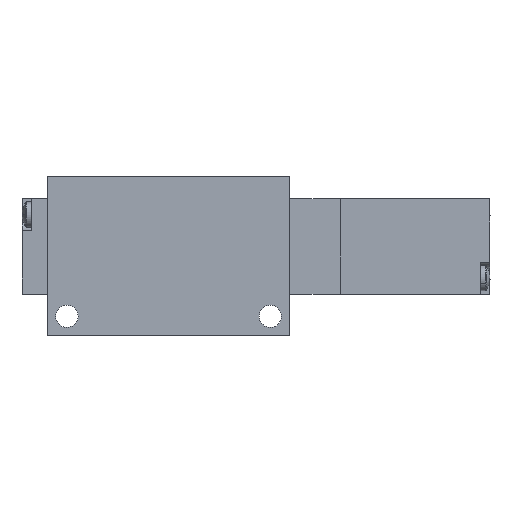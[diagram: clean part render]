
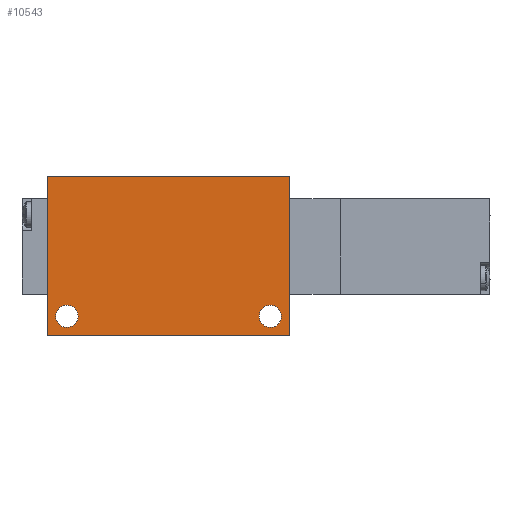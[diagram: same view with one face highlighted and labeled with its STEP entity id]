
A CAD part, front view. The second image highlights one B-rep face of the part: STEP entity #10543.
In plain terms, the highlighted planar face has unit normal (0, -1, 0).
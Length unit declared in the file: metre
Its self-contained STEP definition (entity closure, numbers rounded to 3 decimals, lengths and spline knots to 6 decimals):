
#51 = EDGE_LOOP ( 'NONE', ( #8492, #4723 ) ) ;
#93 = CARTESIAN_POINT ( 'NONE',  ( 0.019, -0.0105, -0.0015 ) ) ;
#106 = LINE ( 'NONE', #10734, #1836 ) ;
#130 = VERTEX_POINT ( 'NONE', #2410 ) ;
#149 = EDGE_CURVE ( 'NONE', #10753, #7674, #1873, .T. ) ;
#177 = EDGE_CURVE ( 'NONE', #7674, #2455, #3901, .T. ) ;
#744 = CARTESIAN_POINT ( 'NONE',  ( 0.016, -0.0105, -0.011 ) ) ;
#829 = PLANE ( 'NONE',  #4753 ) ;
#855 = CARTESIAN_POINT ( 'NONE',  ( 0.019, -0.0105, -0.014 ) ) ;
#897 = VERTEX_POINT ( 'NONE', #9152 ) ;
#937 = DIRECTION ( 'NONE',  ( 0., 0., 1. ) ) ;
#1187 = DIRECTION ( 'NONE',  ( 0., 0., 1. ) ) ;
#1212 = CARTESIAN_POINT ( 'NONE',  ( 0., -0.0105, -0.014 ) ) ;
#1288 = AXIS2_PLACEMENT_3D ( 'NONE', #744, #6794, #1598 ) ;
#1340 = VECTOR ( 'NONE', #1187, 1. ) ;
#1481 = ORIENTED_EDGE ( 'NONE', *, *, #10466, .F. ) ;
#1598 = DIRECTION ( 'NONE',  ( 0., 0., 1. ) ) ;
#1682 = CIRCLE ( 'NONE', #6454, 0.00175 ) ;
#1836 = VECTOR ( 'NONE', #10811, 1. ) ;
#1873 = LINE ( 'NONE', #1212, #6225 ) ;
#2364 = EDGE_CURVE ( 'NONE', #130, #4921, #3323, .T. ) ;
#2390 = CIRCLE ( 'NONE', #1288, 0.00175 ) ;
#2410 = CARTESIAN_POINT ( 'NONE',  ( 0.016, -0.0105, -0.00925 ) ) ;
#2455 = VERTEX_POINT ( 'NONE', #9826 ) ;
#2595 = EDGE_CURVE ( 'NONE', #897, #3506, #1682, .T. ) ;
#3173 = AXIS2_PLACEMENT_3D ( 'NONE', #9091, #9056, #9104 ) ;
#3194 = EDGE_CURVE ( 'NONE', #2455, #6455, #5785, .T. ) ;
#3208 = CARTESIAN_POINT ( 'NONE',  ( -0.016, -0.0105, -0.011 ) ) ;
#3323 = CIRCLE ( 'NONE', #3173, 0.00175 ) ;
#3422 = ORIENTED_EDGE ( 'NONE', *, *, #3194, .T. ) ;
#3434 = DIRECTION ( 'NONE',  ( 0., -1., 0. ) ) ;
#3506 = VERTEX_POINT ( 'NONE', #6853 ) ;
#3534 = ORIENTED_EDGE ( 'NONE', *, *, #177, .T. ) ;
#3577 = EDGE_LOOP ( 'NONE', ( #8648, #7882, #3534, #3422 ) ) ;
#3827 = DIRECTION ( 'NONE',  ( 0., 1., 0. ) ) ;
#3877 = FACE_OUTER_BOUND ( 'NONE', #3577, .T. ) ;
#3896 = EDGE_CURVE ( 'NONE', #6455, #10753, #106, .T. ) ;
#3901 = LINE ( 'NONE', #93, #1340 ) ;
#4058 = DIRECTION ( 'NONE',  ( 0., 0., 1. ) ) ;
#4723 = ORIENTED_EDGE ( 'NONE', *, *, #10382, .T. ) ;
#4753 = AXIS2_PLACEMENT_3D ( 'NONE', #6011, #3434, #9475 ) ;
#4772 = EDGE_LOOP ( 'NONE', ( #8409, #1481 ) ) ;
#4921 = VERTEX_POINT ( 'NONE', #7864 ) ;
#5237 = CIRCLE ( 'NONE', #7302, 0.00175 ) ;
#5518 = VECTOR ( 'NONE', #6233, 1. ) ;
#5785 = LINE ( 'NONE', #6216, #5518 ) ;
#6011 = CARTESIAN_POINT ( 'NONE',  ( -0.019, -0.0105, 0.011 ) ) ;
#6197 = FACE_BOUND ( 'NONE', #4772, .T. ) ;
#6216 = CARTESIAN_POINT ( 'NONE',  ( 0., -0.0105, 0.011 ) ) ;
#6225 = VECTOR ( 'NONE', #10839, 1. ) ;
#6233 = DIRECTION ( 'NONE',  ( -1., 0., 0. ) ) ;
#6454 = AXIS2_PLACEMENT_3D ( 'NONE', #11042, #3827, #937 ) ;
#6455 = VERTEX_POINT ( 'NONE', #7233 ) ;
#6794 = DIRECTION ( 'NONE',  ( 0., -1., 0. ) ) ;
#6853 = CARTESIAN_POINT ( 'NONE',  ( -0.016, -0.0105, -0.01275 ) ) ;
#7233 = CARTESIAN_POINT ( 'NONE',  ( -0.019, -0.0105, 0.011 ) ) ;
#7302 = AXIS2_PLACEMENT_3D ( 'NONE', #3208, #9243, #4058 ) ;
#7674 = VERTEX_POINT ( 'NONE', #855 ) ;
#7864 = CARTESIAN_POINT ( 'NONE',  ( 0.016, -0.0105, -0.01275 ) ) ;
#7882 = ORIENTED_EDGE ( 'NONE', *, *, #149, .T. ) ;
#8409 = ORIENTED_EDGE ( 'NONE', *, *, #2364, .F. ) ;
#8492 = ORIENTED_EDGE ( 'NONE', *, *, #2595, .T. ) ;
#8648 = ORIENTED_EDGE ( 'NONE', *, *, #3896, .T. ) ;
#9056 = DIRECTION ( 'NONE',  ( 0., -1., 0. ) ) ;
#9091 = CARTESIAN_POINT ( 'NONE',  ( 0.016, -0.0105, -0.011 ) ) ;
#9104 = DIRECTION ( 'NONE',  ( 0., 0., 1. ) ) ;
#9152 = CARTESIAN_POINT ( 'NONE',  ( -0.016, -0.0105, -0.00925 ) ) ;
#9243 = DIRECTION ( 'NONE',  ( 0., 1., 0. ) ) ;
#9475 = DIRECTION ( 'NONE',  ( 0., 0., -1. ) ) ;
#9826 = CARTESIAN_POINT ( 'NONE',  ( 0.019, -0.0105, 0.011 ) ) ;
#9901 = CARTESIAN_POINT ( 'NONE',  ( -0.019, -0.0105, -0.014 ) ) ;
#10382 = EDGE_CURVE ( 'NONE', #3506, #897, #5237, .T. ) ;
#10466 = EDGE_CURVE ( 'NONE', #4921, #130, #2390, .T. ) ;
#10543 = ADVANCED_FACE ( 'NONE', ( #10547, #6197, #3877 ), #829, .T. ) ;
#10547 = FACE_BOUND ( 'NONE', #51, .T. ) ;
#10734 = CARTESIAN_POINT ( 'NONE',  ( -0.019, -0.0105, -0.0015 ) ) ;
#10753 = VERTEX_POINT ( 'NONE', #9901 ) ;
#10811 = DIRECTION ( 'NONE',  ( 0., 0., -1. ) ) ;
#10839 = DIRECTION ( 'NONE',  ( 1., 0., 0. ) ) ;
#11042 = CARTESIAN_POINT ( 'NONE',  ( -0.016, -0.0105, -0.011 ) ) ;
